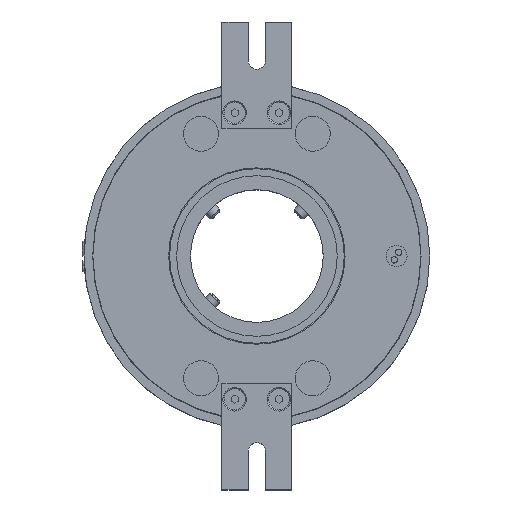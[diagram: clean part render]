
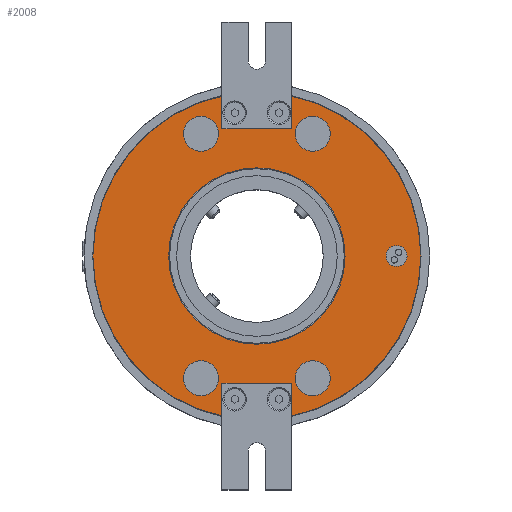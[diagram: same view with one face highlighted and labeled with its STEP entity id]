
A CAD part, top view. The second image highlights one B-rep face of the part: STEP entity #2008.
In plain terms, the highlighted planar face has unit normal (0, 0, 1).
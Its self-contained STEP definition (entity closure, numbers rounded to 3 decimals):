
#256=FACE_BOUND('',#5059,.T.);
#257=FACE_BOUND('',#5060,.T.);
#258=FACE_BOUND('',#5061,.T.);
#259=FACE_BOUND('',#5062,.T.);
#260=FACE_BOUND('',#5063,.T.);
#261=FACE_BOUND('',#5064,.T.);
#262=FACE_BOUND('',#5065,.T.);
#505=CIRCLE('',#16803,46.95);
#506=CIRCLE('',#16804,46.95);
#508=CIRCLE('',#16807,25.25);
#510=CIRCLE('',#16810,5.);
#512=CIRCLE('',#16813,5.);
#514=CIRCLE('',#16816,5.);
#516=CIRCLE('',#16819,5.);
#518=CIRCLE('',#16822,3.);
#934=PLANE('',#16824);
#1160=LINE('',#31735,#3218);
#1164=LINE('',#31743,#3222);
#1168=LINE('',#31750,#3226);
#1222=LINE('',#31885,#3280);
#1226=LINE('',#31893,#3284);
#1230=LINE('',#31900,#3288);
#2008=ADVANCED_FACE('',(#256,#257,#258,#259,#260,#261,#262),#934,.T.);
#3218=VECTOR('',#18275,1.);
#3222=VECTOR('',#18281,1.);
#3226=VECTOR('',#18287,1.);
#3280=VECTOR('',#18417,1.);
#3284=VECTOR('',#18423,1.);
#3288=VECTOR('',#18429,1.);
#5059=EDGE_LOOP('',(#8509));
#5060=EDGE_LOOP('',(#8510));
#5061=EDGE_LOOP('',(#8511));
#5062=EDGE_LOOP('',(#8512));
#5063=EDGE_LOOP('',(#8513));
#5064=EDGE_LOOP('',(#8514));
#5065=EDGE_LOOP('',(#8515,#8516,#8517,#8518,#8519,#8520,#8521,#8522));
#8509=ORIENTED_EDGE('',*,*,#13603,.F.);
#8510=ORIENTED_EDGE('',*,*,#13601,.T.);
#8511=ORIENTED_EDGE('',*,*,#13599,.T.);
#8512=ORIENTED_EDGE('',*,*,#13597,.T.);
#8513=ORIENTED_EDGE('',*,*,#13595,.T.);
#8514=ORIENTED_EDGE('',*,*,#13593,.F.);
#8515=ORIENTED_EDGE('',*,*,#13450,.F.);
#8516=ORIENTED_EDGE('',*,*,#13590,.F.);
#8517=ORIENTED_EDGE('',*,*,#13513,.F.);
#8518=ORIENTED_EDGE('',*,*,#13517,.F.);
#8519=ORIENTED_EDGE('',*,*,#13521,.F.);
#8520=ORIENTED_EDGE('',*,*,#13591,.F.);
#8521=ORIENTED_EDGE('',*,*,#13442,.F.);
#8522=ORIENTED_EDGE('',*,*,#13446,.F.);
#11277=VERTEX_POINT('',#31734);
#11278=VERTEX_POINT('',#31736);
#11280=VERTEX_POINT('',#31742);
#11282=VERTEX_POINT('',#31749);
#11325=VERTEX_POINT('',#31884);
#11326=VERTEX_POINT('',#31886);
#11328=VERTEX_POINT('',#31892);
#11330=VERTEX_POINT('',#31899);
#11379=VERTEX_POINT('',#32116);
#11381=VERTEX_POINT('',#32121);
#11383=VERTEX_POINT('',#32126);
#11385=VERTEX_POINT('',#32131);
#11387=VERTEX_POINT('',#32136);
#11389=VERTEX_POINT('',#32141);
#13442=EDGE_CURVE('',#11277,#11278,#1160,.T.);
#13446=EDGE_CURVE('',#11280,#11277,#1164,.T.);
#13450=EDGE_CURVE('',#11282,#11280,#1168,.T.);
#13513=EDGE_CURVE('',#11325,#11326,#1222,.T.);
#13517=EDGE_CURVE('',#11328,#11325,#1226,.T.);
#13521=EDGE_CURVE('',#11330,#11328,#1230,.T.);
#13590=EDGE_CURVE('',#11326,#11282,#505,.T.);
#13591=EDGE_CURVE('',#11278,#11330,#506,.T.);
#13593=EDGE_CURVE('',#11379,#11379,#508,.T.);
#13595=EDGE_CURVE('',#11381,#11381,#510,.T.);
#13597=EDGE_CURVE('',#11383,#11383,#512,.T.);
#13599=EDGE_CURVE('',#11385,#11385,#514,.T.);
#13601=EDGE_CURVE('',#11387,#11387,#516,.T.);
#13603=EDGE_CURVE('',#11389,#11389,#518,.T.);
#16803=AXIS2_PLACEMENT_3D('',#32110,#18592,#18593);
#16804=AXIS2_PLACEMENT_3D('',#32111,#18594,#18595);
#16807=AXIS2_PLACEMENT_3D('',#32115,#18600,#18601);
#16810=AXIS2_PLACEMENT_3D('',#32120,#18606,#18607);
#16813=AXIS2_PLACEMENT_3D('',#32125,#18612,#18613);
#16816=AXIS2_PLACEMENT_3D('',#32130,#18618,#18619);
#16819=AXIS2_PLACEMENT_3D('',#32135,#18624,#18625);
#16822=AXIS2_PLACEMENT_3D('',#32140,#18630,#18631);
#16824=AXIS2_PLACEMENT_3D('',#32143,#18634,#18635);
#18275=DIRECTION('',(0.,1.,0.));
#18281=DIRECTION('',(1.,0.,0.));
#18287=DIRECTION('',(0.,-1.,0.));
#18417=DIRECTION('',(0.,-1.,0.));
#18423=DIRECTION('',(-1.,0.,0.));
#18429=DIRECTION('',(0.,1.,0.));
#18592=DIRECTION('',(0.,0.,-1.));
#18593=DIRECTION('',(1.,0.,0.));
#18594=DIRECTION('',(0.,0.,-1.));
#18595=DIRECTION('',(1.,0.,0.));
#18600=DIRECTION('',(0.,0.,1.));
#18601=DIRECTION('',(1.,0.,0.));
#18606=DIRECTION('',(0.,0.,-1.));
#18607=DIRECTION('',(1.,0.,0.));
#18612=DIRECTION('',(0.,0.,-1.));
#18613=DIRECTION('',(-1.,0.,0.));
#18618=DIRECTION('',(0.,0.,-1.));
#18619=DIRECTION('',(1.,0.,0.));
#18624=DIRECTION('',(0.,0.,-1.));
#18625=DIRECTION('',(-1.,0.,0.));
#18630=DIRECTION('',(0.,0.,1.));
#18631=DIRECTION('',(0.866,-0.5,0.));
#18634=DIRECTION('',(0.,0.,1.));
#18635=DIRECTION('',(1.,0.,0.));
#31734=CARTESIAN_POINT('',(10.,36.5,42.));
#31735=CARTESIAN_POINT('',(10.,51.75,42.));
#31736=CARTESIAN_POINT('',(10.,45.873,42.));
#31742=CARTESIAN_POINT('',(-10.,36.5,42.));
#31743=CARTESIAN_POINT('',(0.,36.5,42.));
#31749=CARTESIAN_POINT('',(-10.,45.873,42.));
#31750=CARTESIAN_POINT('',(-10.,51.75,42.));
#31884=CARTESIAN_POINT('',(-10.,-36.5,42.));
#31885=CARTESIAN_POINT('',(-10.,-51.75,42.));
#31886=CARTESIAN_POINT('',(-10.,-45.873,42.));
#31892=CARTESIAN_POINT('',(10.,-36.5,42.));
#31893=CARTESIAN_POINT('',(0.,-36.5,42.));
#31899=CARTESIAN_POINT('',(10.,-45.873,42.));
#31900=CARTESIAN_POINT('',(10.,-51.75,42.));
#32110=CARTESIAN_POINT('',(0.,0.,42.));
#32111=CARTESIAN_POINT('',(0.,0.,42.));
#32115=CARTESIAN_POINT('',(0.,0.,42.));
#32116=CARTESIAN_POINT('',(25.25,0.,42.));
#32120=CARTESIAN_POINT('',(16.,35.,42.));
#32121=CARTESIAN_POINT('',(21.,35.,42.));
#32125=CARTESIAN_POINT('',(-16.,-35.,42.));
#32126=CARTESIAN_POINT('',(-21.,-35.,42.));
#32130=CARTESIAN_POINT('',(-16.,35.,42.));
#32131=CARTESIAN_POINT('',(-11.,35.,42.));
#32135=CARTESIAN_POINT('',(16.,-35.,42.));
#32136=CARTESIAN_POINT('',(11.,-35.,42.));
#32140=CARTESIAN_POINT('',(40.,0.,42.));
#32141=CARTESIAN_POINT('',(42.598,-1.5,42.));
#32143=CARTESIAN_POINT('',(0.,0.,42.));
